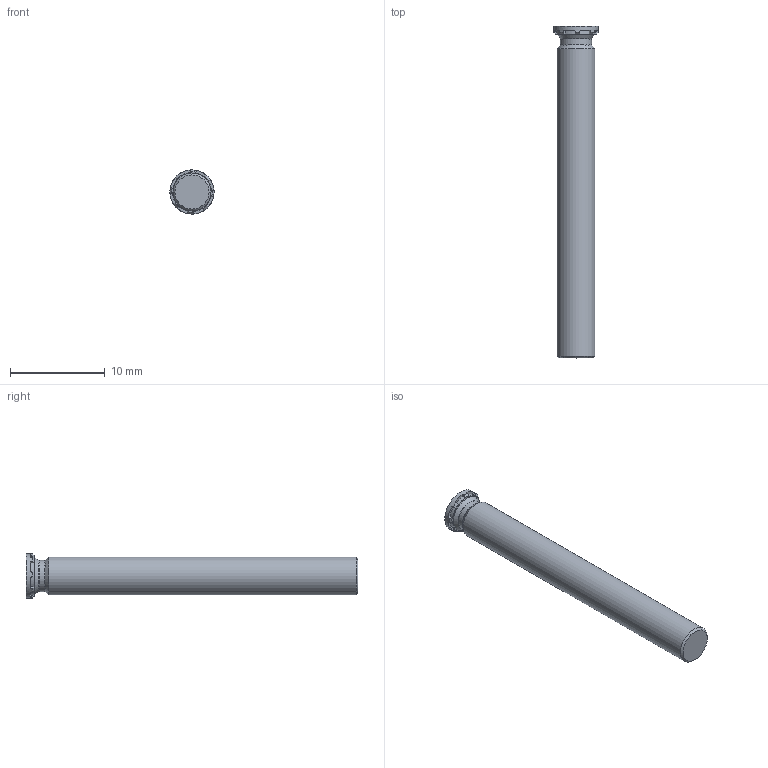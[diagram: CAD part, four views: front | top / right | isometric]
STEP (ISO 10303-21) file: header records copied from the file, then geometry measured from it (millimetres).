
FILE_DESCRIPTION(/* description */ (''),/* implementation_level */ '2;1');
FILE_NAME(/* name */ 'C:\Users\keval.kumar\Desktop\Fastit\Clinch Screw- Reduced FH Range\M4\Clinch Screw-Reduced FH Range_M4x35.stp',/* time_stamp */ '2024-03-12T13:54:36+05:00',/* author */ ('keval.kumar'),/* organization */ (''),/* preprocessor_version */ 'ST-DEVELOPER v18.1',/* originating_system */ 'Autodesk Inventor 2022',/* authorisation */ '');
FILE_SCHEMA (('AUTOMOTIVE_DESIGN { 1 0 10303 214 3 1 1 }'));
Length unit declared in the file: millimetre
Products named in the file (1): Clinch Screw-Reduced FH Range_M4x35
Bounding box: 4.65 x 35 x 4.65 mm (x, y, z)
Volume: 437.7 mm3; surface area: 474.7 mm2
Topology: 1 solids, 1 shells, 68 faces, 193 edges, 128 vertices
Faces by surface type: plane 43, cylinder 12, cone 11, torus 2
Full cylindrical faces by diameter (mm): 3.3 x1, 3.9 x1, 4 x1, 4.65 x1
Entity records: 2278 total; most frequent: CARTESIAN_POINT 422, DIRECTION 405, ORIENTED_EDGE 386, EDGE_CURVE 193, AXIS2_PLACEMENT_3D 159, VERTEX_POINT 128, LINE 87, VECTOR 87
